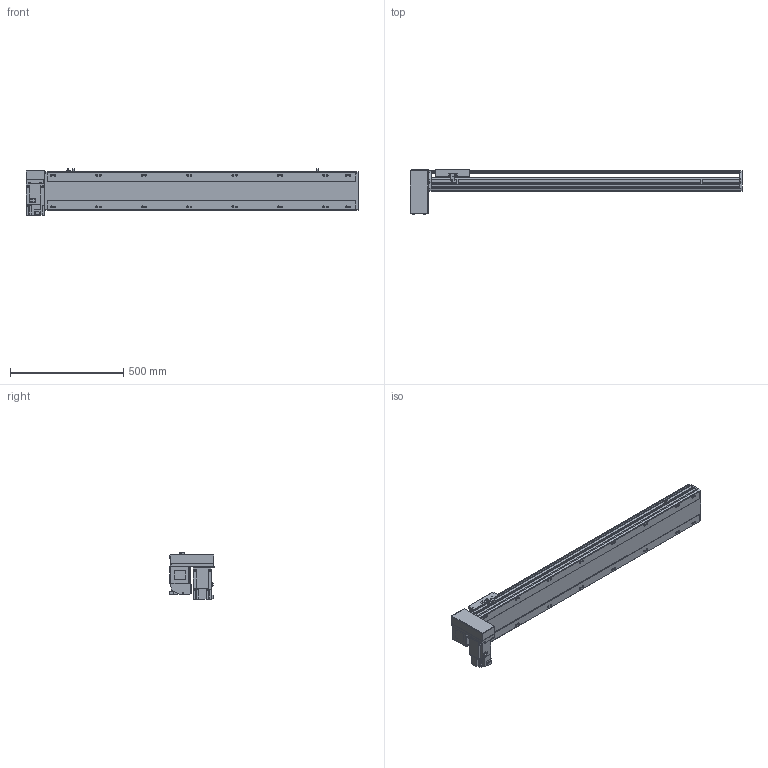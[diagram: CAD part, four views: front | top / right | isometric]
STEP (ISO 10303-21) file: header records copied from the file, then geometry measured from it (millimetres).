
FILE_DESCRIPTION( ( 'STEP AP214' ), '1' );
FILE_NAME( 'x:/temp/worker_5/temp/exporttempdir_3988_30_u05kZ/format_0/PBS170-P40-S1100-RD-T75-C1-N(0).stp', '2022-06-08T05:35:40', ( 'License CC BY-ND 4.0' ), ( 'CADENAS' ), ' ', 'PARTsolutions', ' ' );
FILE_SCHEMA( ( 'AUTOMOTIVE_DESIGN { 1 0 10303 214 1 1 1 1 }' ) );
Length unit declared in the file: millimetre
Products named in the file (7): PBS170-P40-S1100-RD-T75-C1-N(0); _PBS170-S1100()_body; _PBS170T-RD_motors; _T75-p1; _PBS170_sliser; _PBS170_plant; _PBS170_sensor
Assembly tree (8 placements, depth 2):
  PBS170-P40-S1100-RD-T75-C1-N(0)
    _PBS170-S1100()_body
    _PBS170T-RD_motors
    _T75-p1
    _PBS170_sliser
    _PBS170_plant
    _PBS170_sensor  x3
Bounding box: 1463 x 201 x 205.3 mm (x, y, z)
Volume: 11701873.6 mm3; surface area: 1526560.8 mm2
Topology: 8 solids, 8 shells, 1082 faces, 2875 edges, 1874 vertices
Faces by surface type: plane 687, cylinder 339, cone 46, sphere 8, torus 2
Full cylindrical faces by diameter (mm): 3.242 x4, 4 x2, 4.4 x4, 4.5 x6, 4.917 x4, 6 x9, 6.647 x24, 7 x2, 7.5 x4, 8 x8, 8.5 x16, 10 x4, 10.5 x16, 11 x2, 30 x2, 40 x1, 70 x1
Entity records: 39740 total; most frequent: CARTESIAN_POINT 6221, DIRECTION 5300, ORIENTED_EDGE 5028, EDGE_CURVE 2514, AXIS2_PLACEMENT_3D 1837, VERTEX_POINT 1730, LINE 1626, VECTOR 1626
